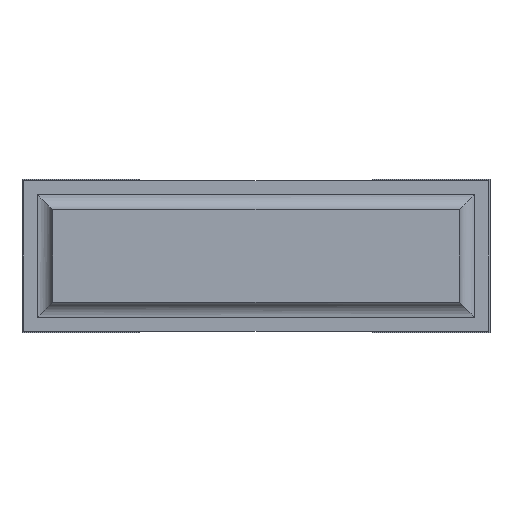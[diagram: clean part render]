
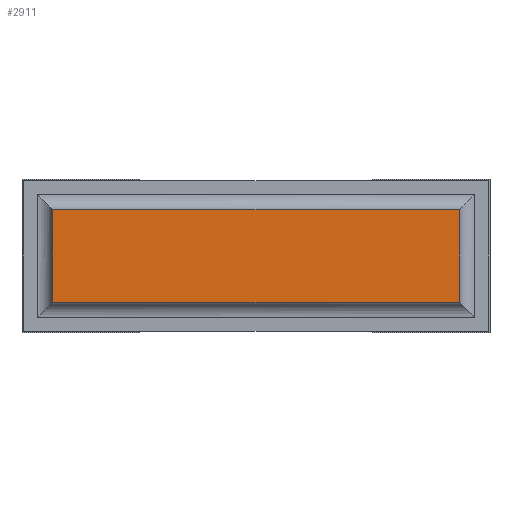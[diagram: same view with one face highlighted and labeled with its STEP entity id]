
A CAD part, front view. The second image highlights one B-rep face of the part: STEP entity #2911.
In plain terms, the highlighted planar face has unit normal (0, -1, 0).
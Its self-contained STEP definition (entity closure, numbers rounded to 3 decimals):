
#72=PLANE('',#3108);
#205=FACE_OUTER_BOUND('',#370,.T.);
#370=EDGE_LOOP('',(#2069,#2070,#2071,#2072));
#522=LINE('',#4134,#896);
#526=LINE('',#4144,#900);
#549=LINE('',#4193,#923);
#552=LINE('',#4203,#926);
#896=VECTOR('',#3317,10.);
#900=VECTOR('',#3327,10.);
#923=VECTOR('',#3368,10.);
#926=VECTOR('',#3383,10.);
#1291=VERTEX_POINT('',#4131);
#1292=VERTEX_POINT('',#4133);
#1295=VERTEX_POINT('',#4143);
#1312=VERTEX_POINT('',#4190);
#1572=EDGE_CURVE('',#1292,#1291,#522,.T.);
#1577=EDGE_CURVE('',#1295,#1292,#526,.T.);
#1602=EDGE_CURVE('',#1312,#1295,#549,.T.);
#1607=EDGE_CURVE('',#1291,#1312,#552,.T.);
#2069=ORIENTED_EDGE('',*,*,#1572,.T.);
#2070=ORIENTED_EDGE('',*,*,#1607,.T.);
#2071=ORIENTED_EDGE('',*,*,#1602,.T.);
#2072=ORIENTED_EDGE('',*,*,#1577,.T.);
#2911=ADVANCED_FACE('',(#205),#72,.T.);
#3108=AXIS2_PLACEMENT_3D('',#4208,#3389,#3390);
#3317=DIRECTION('',(0.,0.,-1.));
#3327=DIRECTION('',(-1.,0.,0.));
#3368=DIRECTION('',(0.,0.,1.));
#3383=DIRECTION('',(1.,0.,0.));
#3389=DIRECTION('center_axis',(0.,-1.,0.));
#3390=DIRECTION('ref_axis',(0.,0.,-1.));
#4131=CARTESIAN_POINT('',(0.1,0.,0.1));
#4133=CARTESIAN_POINT('',(0.1,0.,0.4));
#4134=CARTESIAN_POINT('',(0.1,0.,0.4));
#4143=CARTESIAN_POINT('',(1.42,0.,0.4));
#4144=CARTESIAN_POINT('',(1.42,0.,0.4));
#4190=CARTESIAN_POINT('',(1.42,0.,0.1));
#4193=CARTESIAN_POINT('',(1.42,0.,0.1));
#4203=CARTESIAN_POINT('',(0.1,0.,0.1));
#4208=CARTESIAN_POINT('Origin',(0.1,0.,0.25));
